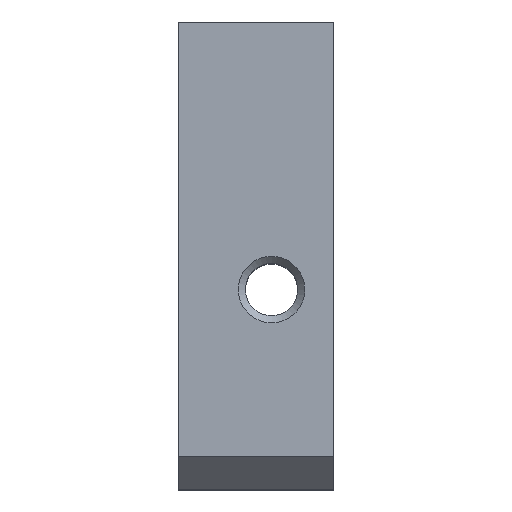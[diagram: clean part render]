
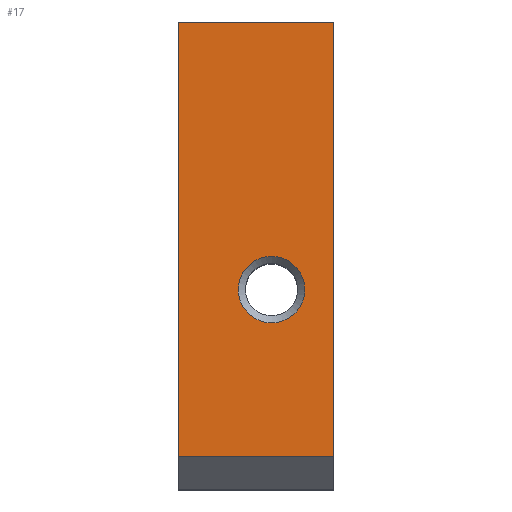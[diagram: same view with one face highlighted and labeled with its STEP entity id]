
A CAD part, top view. The second image highlights one B-rep face of the part: STEP entity #17.
In plain terms, the highlighted planar face has unit normal (0, 0, 1).
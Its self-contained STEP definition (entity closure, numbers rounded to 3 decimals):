
#17 = ADVANCED_FACE('f000',(#18,#58),#31,.T.);
#18 = FACE_BOUND('',#19,.T.);
#19 = EDGE_LOOP('',(#20));
#20 = ORIENTED_EDGE('',*,*,#21,.T.);
#21 = EDGE_CURVE('',#22,#22,#24,.T.);
#22 = VERTEX_POINT('',#23);
#23 = CARTESIAN_POINT('',(4.859,16.243,26.398
    ));
#24 = SURFACE_CURVE('',#25,(#30,#46),.PCURVE_S1.);
#25 = CIRCLE('',#26,2.707);
#26 = AXIS2_PLACEMENT_3D('',#27,#28,#29);
#27 = CARTESIAN_POINT('',(7.566,16.243,26.398
    ));
#28 = DIRECTION('',(-0.,0.,-1.));
#29 = DIRECTION('',(-1.,0.,0.));
#30 = PCURVE('',#31,#36);
#31 = PLANE('',#32);
#32 = AXIS2_PLACEMENT_3D('',#33,#34,#35);
#33 = CARTESIAN_POINT('',(0.,0.,26.398));
#34 = DIRECTION('',(0.,0.,1.));
#35 = DIRECTION('',(1.,0.,-0.));
#36 = DEFINITIONAL_REPRESENTATION('',(#37),#45);
#37 = ( BOUNDED_CURVE() B_SPLINE_CURVE(2,(#38,#39,#40,#41,#42,#43,#44),
.UNSPECIFIED.,.T.,.F.) B_SPLINE_CURVE_WITH_KNOTS((1,2,2,2,2,1),(
    -2.094,0.,2.094,4.189,6.283,
8.378),.UNSPECIFIED.) CURVE() GEOMETRIC_REPRESENTATION_ITEM() 
RATIONAL_B_SPLINE_CURVE((1.,0.5,1.,0.5,1.,0.5,1.)) REPRESENTATION_ITEM(
  '') );
#38 = CARTESIAN_POINT('',(4.859,16.243));
#39 = CARTESIAN_POINT('',(4.859,20.931));
#40 = CARTESIAN_POINT('',(8.919,18.587));
#41 = CARTESIAN_POINT('',(12.979,16.243));
#42 = CARTESIAN_POINT('',(8.919,13.899));
#43 = CARTESIAN_POINT('',(4.859,11.555));
#44 = CARTESIAN_POINT('',(4.859,16.243));
#45 = ( GEOMETRIC_REPRESENTATION_CONTEXT(2) 
PARAMETRIC_REPRESENTATION_CONTEXT() REPRESENTATION_CONTEXT('2D SPACE',''
  ) );
#46 = PCURVE('',#47,#52);
#47 = CONICAL_SURFACE('',#48,2.118,0.785);
#48 = AXIS2_PLACEMENT_3D('',#49,#50,#51);
#49 = CARTESIAN_POINT('',(7.566,16.243,25.809
    ));
#50 = DIRECTION('',(0.,0.,1.));
#51 = DIRECTION('',(-1.,0.,0.));
#52 = DEFINITIONAL_REPRESENTATION('',(#53),#57);
#53 = LINE('',#54,#55);
#54 = CARTESIAN_POINT('',(0.,0.589));
#55 = VECTOR('',#56,1.);
#56 = DIRECTION('',(-1.,-0.));
#57 = ( GEOMETRIC_REPRESENTATION_CONTEXT(2) 
PARAMETRIC_REPRESENTATION_CONTEXT() REPRESENTATION_CONTEXT('2D SPACE',''
  ) );
#58 = FACE_BOUND('',#59,.T.);
#59 = EDGE_LOOP('',(#60,#90,#118,#146));
#60 = ORIENTED_EDGE('',*,*,#61,.F.);
#61 = EDGE_CURVE('',#62,#64,#66,.T.);
#62 = VERTEX_POINT('',#63);
#63 = CARTESIAN_POINT('',(0.,2.708,26.398));
#64 = VERTEX_POINT('',#65);
#65 = CARTESIAN_POINT('',(0.,37.99,26.398));
#66 = SURFACE_CURVE('',#67,(#71,#78),.PCURVE_S1.);
#67 = LINE('',#68,#69);
#68 = CARTESIAN_POINT('',(0.,0.,26.398));
#69 = VECTOR('',#70,1.);
#70 = DIRECTION('',(-0.,1.,0.));
#71 = PCURVE('',#31,#72);
#72 = DEFINITIONAL_REPRESENTATION('',(#73),#77);
#73 = LINE('',#74,#75);
#74 = CARTESIAN_POINT('',(0.,0.));
#75 = VECTOR('',#76,1.);
#76 = DIRECTION('',(0.,1.));
#77 = ( GEOMETRIC_REPRESENTATION_CONTEXT(2) 
PARAMETRIC_REPRESENTATION_CONTEXT() REPRESENTATION_CONTEXT('2D SPACE',''
  ) );
#78 = PCURVE('',#79,#84);
#79 = PLANE('',#80);
#80 = AXIS2_PLACEMENT_3D('',#81,#82,#83);
#81 = CARTESIAN_POINT('',(0.,0.,0.));
#82 = DIRECTION('',(1.,0.,-0.));
#83 = DIRECTION('',(0.,0.,1.));
#84 = DEFINITIONAL_REPRESENTATION('',(#85),#89);
#85 = LINE('',#86,#87);
#86 = CARTESIAN_POINT('',(26.398,0.));
#87 = VECTOR('',#88,1.);
#88 = DIRECTION('',(0.,-1.));
#89 = ( GEOMETRIC_REPRESENTATION_CONTEXT(2) 
PARAMETRIC_REPRESENTATION_CONTEXT() REPRESENTATION_CONTEXT('2D SPACE',''
  ) );
#90 = ORIENTED_EDGE('',*,*,#91,.T.);
#91 = EDGE_CURVE('',#62,#92,#94,.T.);
#92 = VERTEX_POINT('',#93);
#93 = CARTESIAN_POINT('',(12.609,2.708,26.398
    ));
#94 = SURFACE_CURVE('',#95,(#99,#106),.PCURVE_S1.);
#95 = LINE('',#96,#97);
#96 = CARTESIAN_POINT('',(0.,2.708,26.398));
#97 = VECTOR('',#98,1.);
#98 = DIRECTION('',(1.,0.,-0.));
#99 = PCURVE('',#31,#100);
#100 = DEFINITIONAL_REPRESENTATION('',(#101),#105);
#101 = LINE('',#102,#103);
#102 = CARTESIAN_POINT('',(0.,2.708));
#103 = VECTOR('',#104,1.);
#104 = DIRECTION('',(1.,0.));
#105 = ( GEOMETRIC_REPRESENTATION_CONTEXT(2) 
PARAMETRIC_REPRESENTATION_CONTEXT() REPRESENTATION_CONTEXT('2D SPACE',''
  ) );
#106 = PCURVE('',#107,#112);
#107 = PLANE('',#108);
#108 = AXIS2_PLACEMENT_3D('',#109,#110,#111);
#109 = CARTESIAN_POINT('',(0.,1.354,25.044));
#110 = DIRECTION('',(0.,0.707,-0.707));
#111 = DIRECTION('',(-1.,0.,-0.));
#112 = DEFINITIONAL_REPRESENTATION('',(#113),#117);
#113 = LINE('',#114,#115);
#114 = CARTESIAN_POINT('',(-0.,1.915));
#115 = VECTOR('',#116,1.);
#116 = DIRECTION('',(-1.,0.));
#117 = ( GEOMETRIC_REPRESENTATION_CONTEXT(2) 
PARAMETRIC_REPRESENTATION_CONTEXT() REPRESENTATION_CONTEXT('2D SPACE',''
  ) );
#118 = ORIENTED_EDGE('',*,*,#119,.T.);
#119 = EDGE_CURVE('',#92,#120,#122,.T.);
#120 = VERTEX_POINT('',#121);
#121 = CARTESIAN_POINT('',(12.609,37.99,
    26.398));
#122 = SURFACE_CURVE('',#123,(#127,#134),.PCURVE_S1.);
#123 = LINE('',#124,#125);
#124 = CARTESIAN_POINT('',(12.609,0.,26.398));
#125 = VECTOR('',#126,1.);
#126 = DIRECTION('',(-0.,1.,0.));
#127 = PCURVE('',#31,#128);
#128 = DEFINITIONAL_REPRESENTATION('',(#129),#133);
#129 = LINE('',#130,#131);
#130 = CARTESIAN_POINT('',(12.609,0.));
#131 = VECTOR('',#132,1.);
#132 = DIRECTION('',(0.,1.));
#133 = ( GEOMETRIC_REPRESENTATION_CONTEXT(2) 
PARAMETRIC_REPRESENTATION_CONTEXT() REPRESENTATION_CONTEXT('2D SPACE',''
  ) );
#134 = PCURVE('',#135,#140);
#135 = PLANE('',#136);
#136 = AXIS2_PLACEMENT_3D('',#137,#138,#139);
#137 = CARTESIAN_POINT('',(12.609,0.,0.));
#138 = DIRECTION('',(1.,0.,-0.));
#139 = DIRECTION('',(0.,0.,1.));
#140 = DEFINITIONAL_REPRESENTATION('',(#141),#145);
#141 = LINE('',#142,#143);
#142 = CARTESIAN_POINT('',(26.398,0.));
#143 = VECTOR('',#144,1.);
#144 = DIRECTION('',(0.,-1.));
#145 = ( GEOMETRIC_REPRESENTATION_CONTEXT(2) 
PARAMETRIC_REPRESENTATION_CONTEXT() REPRESENTATION_CONTEXT('2D SPACE',''
  ) );
#146 = ORIENTED_EDGE('',*,*,#147,.F.);
#147 = EDGE_CURVE('',#64,#120,#148,.T.);
#148 = SURFACE_CURVE('',#149,(#153,#160),.PCURVE_S1.);
#149 = LINE('',#150,#151);
#150 = CARTESIAN_POINT('',(0.,37.99,26.398));
#151 = VECTOR('',#152,1.);
#152 = DIRECTION('',(1.,0.,-0.));
#153 = PCURVE('',#31,#154);
#154 = DEFINITIONAL_REPRESENTATION('',(#155),#159);
#155 = LINE('',#156,#157);
#156 = CARTESIAN_POINT('',(0.,37.99));
#157 = VECTOR('',#158,1.);
#158 = DIRECTION('',(1.,0.));
#159 = ( GEOMETRIC_REPRESENTATION_CONTEXT(2) 
PARAMETRIC_REPRESENTATION_CONTEXT() REPRESENTATION_CONTEXT('2D SPACE',''
  ) );
#160 = PCURVE('',#161,#166);
#161 = PLANE('',#162);
#162 = AXIS2_PLACEMENT_3D('',#163,#164,#165);
#163 = CARTESIAN_POINT('',(0.,37.99,0.));
#164 = DIRECTION('',(-0.,1.,0.));
#165 = DIRECTION('',(0.,0.,1.));
#166 = DEFINITIONAL_REPRESENTATION('',(#167),#171);
#167 = LINE('',#168,#169);
#168 = CARTESIAN_POINT('',(26.398,0.));
#169 = VECTOR('',#170,1.);
#170 = DIRECTION('',(0.,1.));
#171 = ( GEOMETRIC_REPRESENTATION_CONTEXT(2) 
PARAMETRIC_REPRESENTATION_CONTEXT() REPRESENTATION_CONTEXT('2D SPACE',''
  ) );
